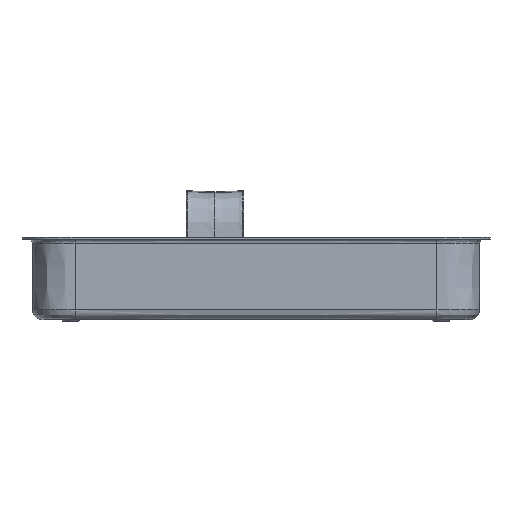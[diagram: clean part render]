
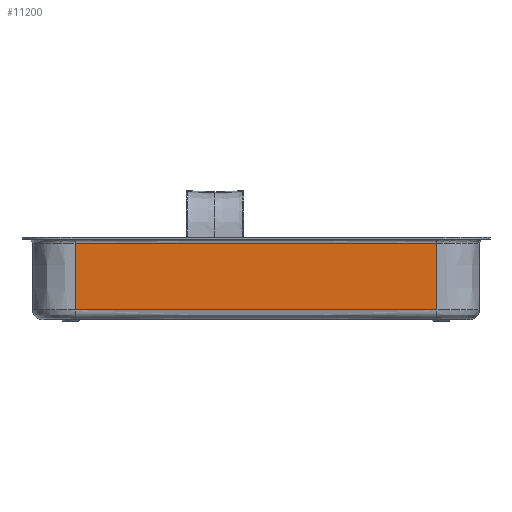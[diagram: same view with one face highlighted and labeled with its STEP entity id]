
A CAD part, left-side view. The second image highlights one B-rep face of the part: STEP entity #11200.
In plain terms, the highlighted free-form (B-spline) face has degree [2, 1] with [3, 2] control points.
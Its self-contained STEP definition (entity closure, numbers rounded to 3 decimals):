
#144=B_SPLINE_CURVE_WITH_KNOTS('',2,(#14834,#14835,#14836),
 .UNSPECIFIED.,.F.,.F.,(3,3),(0.,18.943),.UNSPECIFIED.);
#214=B_SPLINE_CURVE_WITH_KNOTS('',3,(#19395,#19396,#19397,#19398),
 .UNSPECIFIED.,.F.,.F.,(4,4),(0.,18.943),.UNSPECIFIED.);
#690=B_SPLINE_SURFACE_WITH_KNOTS('',2,1,((#20218,#20219),(#20220,#20221),
(#20222,#20223)),.UNSPECIFIED.,.F.,.F.,.F.,(3,3),(2,2),(-1.,0.),(0.,5.04),
 .UNSPECIFIED.);
#961=LINE('',#20224,#1874);
#962=LINE('',#20225,#1875);
#1874=VECTOR('',#12471,10.);
#1875=VECTOR('',#12472,10.);
#2934=FACE_OUTER_BOUND('',#3571,.T.);
#3571=EDGE_LOOP('',(#7311,#7312,#7313,#7314));
#4371=VERTEX_POINT('',#14657);
#4373=VERTEX_POINT('',#14825);
#4421=VERTEX_POINT('',#18648);
#4435=VERTEX_POINT('',#19261);
#5459=EDGE_CURVE('',#4373,#4371,#144,.T.);
#5565=EDGE_CURVE('',#4435,#4421,#214,.T.);
#5598=EDGE_CURVE('',#4435,#4371,#961,.T.);
#5599=EDGE_CURVE('',#4373,#4421,#962,.T.);
#7311=ORIENTED_EDGE('',*,*,#5459,.T.);
#7312=ORIENTED_EDGE('',*,*,#5598,.F.);
#7313=ORIENTED_EDGE('',*,*,#5565,.T.);
#7314=ORIENTED_EDGE('',*,*,#5599,.F.);
#11200=ADVANCED_FACE('',(#2934),#690,.T.);
#12471=DIRECTION('',(0.,0.,-1.));
#12472=DIRECTION('',(0.,0.,1.));
#14657=CARTESIAN_POINT('',(-115.053,-88.287,-16.015));
#14825=CARTESIAN_POINT('',(-115.053,101.145,-16.015));
#14834=CARTESIAN_POINT('Ctrl Pts',(-115.053,101.145,-16.015));
#14835=CARTESIAN_POINT('Ctrl Pts',(-115.053,6.429,-16.015));
#14836=CARTESIAN_POINT('Ctrl Pts',(-115.053,-88.287,
-16.015));
#18648=CARTESIAN_POINT('',(-115.053,101.145,18.985));
#19261=CARTESIAN_POINT('',(-115.053,-88.287,18.985));
#19395=CARTESIAN_POINT('Ctrl Pts',(-115.053,-88.287,
18.985));
#19396=CARTESIAN_POINT('Ctrl Pts',(-115.053,-25.143,
18.985));
#19397=CARTESIAN_POINT('Ctrl Pts',(-115.053,38.001,18.985));
#19398=CARTESIAN_POINT('Ctrl Pts',(-115.053,101.145,18.985));
#20218=CARTESIAN_POINT('Ctrl Pts',(-115.053,-88.287,
20.985));
#20219=CARTESIAN_POINT('Ctrl Pts',(-115.053,-88.287,
-29.415));
#20220=CARTESIAN_POINT('Ctrl Pts',(-115.053,6.429,20.985));
#20221=CARTESIAN_POINT('Ctrl Pts',(-115.053,6.429,-29.415));
#20222=CARTESIAN_POINT('Ctrl Pts',(-115.053,101.145,20.985));
#20223=CARTESIAN_POINT('Ctrl Pts',(-115.053,101.145,-29.415));
#20224=CARTESIAN_POINT('',(-115.053,-88.287,18.985));
#20225=CARTESIAN_POINT('',(-115.053,101.145,-16.015));
